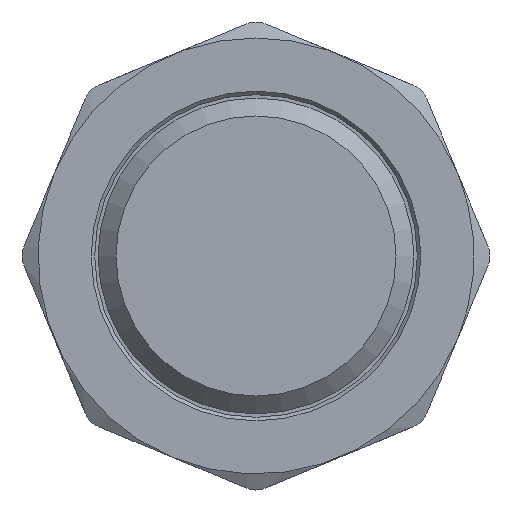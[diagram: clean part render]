
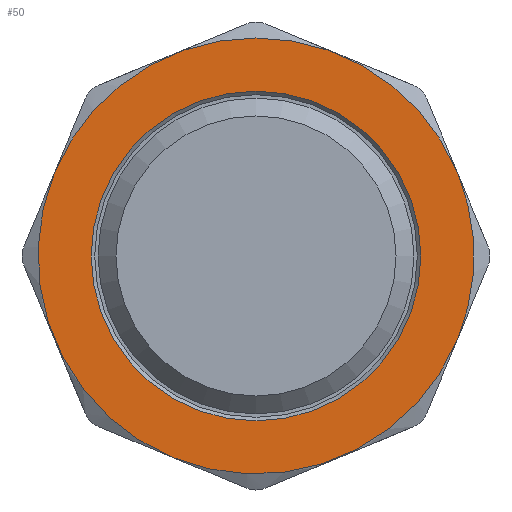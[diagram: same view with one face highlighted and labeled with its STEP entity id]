
A CAD part, front view. The second image highlights one B-rep face of the part: STEP entity #50.
In plain terms, the highlighted planar face has unit normal (0, -1, 0).
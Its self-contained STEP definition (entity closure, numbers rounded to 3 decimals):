
#50=ADVANCED_FACE('',(#149,#151),#153,.T.);
#149=FACE_BOUND('',#150,.T.);
#150=EDGE_LOOP('',(#515));
#151=FACE_BOUND('',#152,.T.);
#152=EDGE_LOOP('',(#516));
#153=PLANE('',#154);
#154=AXIS2_PLACEMENT_3D('',#155,#156,#157);
#155=CARTESIAN_POINT('',(0.,21.5,0.));
#156=DIRECTION('',(0.,-1.,0.));
#157=DIRECTION('',(-1.,0.,0.));
#515=ORIENTED_EDGE('',*,*,#775,.T.);
#516=ORIENTED_EDGE('',*,*,#774,.T.);
#774=EDGE_CURVE('',#913,#913,#914,.F.);
#775=EDGE_CURVE('',#915,#915,#916,.F.);
#913=VERTEX_POINT('',#1153);
#914=CIRCLE('',#1154,13.8);
#915=VERTEX_POINT('',#1158);
#916=CIRCLE('',#1159,18.25);
#1153=CARTESIAN_POINT('',(-13.8,21.5,0.));
#1154=AXIS2_PLACEMENT_3D('',#1155,#1156,#1157);
#1155=CARTESIAN_POINT('',(0.,21.5,0.));
#1156=DIRECTION('',(0.,-1.,0.));
#1157=DIRECTION('',(-1.,0.,0.));
#1158=CARTESIAN_POINT('',(-6.984,21.5,-16.861));
#1159=AXIS2_PLACEMENT_3D('',#1160,#1161,#1162);
#1160=CARTESIAN_POINT('',(0.,21.5,0.));
#1161=DIRECTION('',(0.,1.,0.));
#1162=DIRECTION('',(0.,0.,1.));
